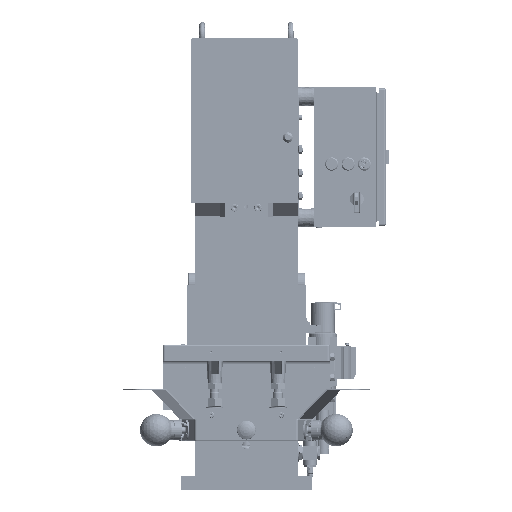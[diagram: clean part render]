
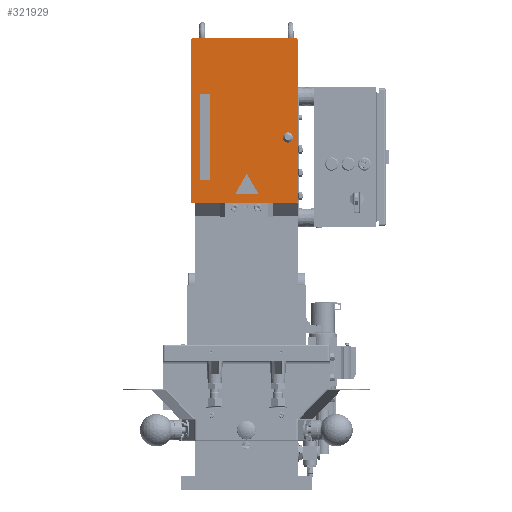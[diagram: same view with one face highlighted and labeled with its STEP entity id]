
A CAD part, front view. The second image highlights one B-rep face of the part: STEP entity #321929.
In plain terms, the highlighted planar face has unit normal (0, -1, 0).
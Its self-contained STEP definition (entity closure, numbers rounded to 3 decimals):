
#23729=FACE_BOUND('',#69516,.T.);
#23730=FACE_BOUND('',#69517,.T.);
#23731=FACE_BOUND('',#69518,.T.);
#37316=PLANE('',#337883);
#51862=FACE_OUTER_BOUND('',#69515,.T.);
#69515=EDGE_LOOP('',(#255871,#255872,#255873,#255874,#255875,#255876,#255877,
#255878));
#69516=EDGE_LOOP('',(#255879,#255880,#255881,#255882));
#69517=EDGE_LOOP('',(#255883,#255884,#255885,#255886,#255887,#255888));
#69518=EDGE_LOOP('',(#255889));
#82221=LINE('',#423368,#110985);
#82603=LINE('',#426106,#111367);
#82606=LINE('',#426111,#111370);
#83584=LINE('',#431251,#112348);
#83585=LINE('',#431253,#112349);
#83588=LINE('',#431266,#112352);
#83592=LINE('',#431278,#112356);
#83597=LINE('',#431290,#112361);
#91762=LINE('',#485654,#120526);
#92408=LINE('',#489853,#121172);
#92410=LINE('',#489862,#121174);
#110985=VECTOR('',#354283,10.);
#111367=VECTOR('',#354887,10.);
#111370=VECTOR('',#354892,10.);
#112348=VECTOR('',#356492,10.);
#112349=VECTOR('',#356495,10.);
#112352=VECTOR('',#356508,10.);
#112356=VECTOR('',#356520,10.);
#112361=VECTOR('',#356533,10.);
#120526=VECTOR('',#369720,10.);
#121172=VECTOR('',#372412,10.);
#121174=VECTOR('',#372422,10.);
#139647=CIRCLE('',#333902,4.);
#139650=CIRCLE('',#333906,4.);
#139652=CIRCLE('',#334336,1.);
#139654=CIRCLE('',#334340,1.);
#139656=CIRCLE('',#334344,1.);
#140061=CIRCLE('',#337431,11.);
#140257=CIRCLE('',#337882,4.);
#140258=CIRCLE('',#337884,4.);
#146610=VERTEX_POINT('',#423343);
#146611=VERTEX_POINT('',#423344);
#146614=VERTEX_POINT('',#423353);
#146615=VERTEX_POINT('',#423354);
#146619=VERTEX_POINT('',#423367);
#147039=VERTEX_POINT('',#426103);
#147040=VERTEX_POINT('',#426105);
#147041=VERTEX_POINT('',#426109);
#147944=VERTEX_POINT('',#431249);
#147947=VERTEX_POINT('',#431259);
#147948=VERTEX_POINT('',#431261);
#147949=VERTEX_POINT('',#431265);
#147952=VERTEX_POINT('',#431273);
#147953=VERTEX_POINT('',#431277);
#147956=VERTEX_POINT('',#431285);
#157027=VERTEX_POINT('',#488155);
#157450=VERTEX_POINT('',#489851);
#157452=VERTEX_POINT('',#489857);
#157453=VERTEX_POINT('',#489861);
#177339=EDGE_CURVE('',#146610,#146611,#139647,.T.);
#177344=EDGE_CURVE('',#146614,#146615,#139650,.T.);
#177351=EDGE_CURVE('',#146619,#146614,#82221,.T.);
#177979=EDGE_CURVE('',#147040,#147039,#82603,.T.);
#177982=EDGE_CURVE('',#147039,#147041,#82606,.T.);
#179339=EDGE_CURVE('',#147041,#147944,#83584,.T.);
#179340=EDGE_CURVE('',#147944,#147040,#83585,.T.);
#179343=EDGE_CURVE('',#147948,#147947,#139652,.T.);
#179345=EDGE_CURVE('',#147949,#147948,#83588,.T.);
#179349=EDGE_CURVE('',#147952,#147949,#139654,.T.);
#179351=EDGE_CURVE('',#147953,#147952,#83592,.T.);
#179355=EDGE_CURVE('',#147956,#147953,#139656,.T.);
#179358=EDGE_CURVE('',#147947,#147956,#83597,.T.);
#192179=EDGE_CURVE('',#146615,#146610,#91762,.T.);
#192908=EDGE_CURVE('',#157027,#157027,#140061,.T.);
#193563=EDGE_CURVE('',#146611,#157450,#92408,.T.);
#193566=EDGE_CURVE('',#157452,#157450,#140257,.T.);
#193567=EDGE_CURVE('',#157452,#157453,#92410,.T.);
#193568=EDGE_CURVE('',#146619,#157453,#140258,.T.);
#255871=ORIENTED_EDGE('',*,*,#177339,.T.);
#255872=ORIENTED_EDGE('',*,*,#193563,.T.);
#255873=ORIENTED_EDGE('',*,*,#193566,.F.);
#255874=ORIENTED_EDGE('',*,*,#193567,.T.);
#255875=ORIENTED_EDGE('',*,*,#193568,.F.);
#255876=ORIENTED_EDGE('',*,*,#177351,.T.);
#255877=ORIENTED_EDGE('',*,*,#177344,.T.);
#255878=ORIENTED_EDGE('',*,*,#192179,.T.);
#255879=ORIENTED_EDGE('',*,*,#177979,.T.);
#255880=ORIENTED_EDGE('',*,*,#177982,.T.);
#255881=ORIENTED_EDGE('',*,*,#179339,.T.);
#255882=ORIENTED_EDGE('',*,*,#179340,.T.);
#255883=ORIENTED_EDGE('',*,*,#179343,.T.);
#255884=ORIENTED_EDGE('',*,*,#179358,.T.);
#255885=ORIENTED_EDGE('',*,*,#179355,.T.);
#255886=ORIENTED_EDGE('',*,*,#179351,.T.);
#255887=ORIENTED_EDGE('',*,*,#179349,.T.);
#255888=ORIENTED_EDGE('',*,*,#179345,.T.);
#255889=ORIENTED_EDGE('',*,*,#192908,.T.);
#321929=ADVANCED_FACE('',(#51862,#23729,#23730,#23731),#37316,.T.);
#333902=AXIS2_PLACEMENT_3D('',#423345,#354261,#354262);
#333906=AXIS2_PLACEMENT_3D('',#423355,#354271,#354272);
#334336=AXIS2_PLACEMENT_3D('',#431262,#356503,#356504);
#334340=AXIS2_PLACEMENT_3D('',#431274,#356515,#356516);
#334344=AXIS2_PLACEMENT_3D('',#431286,#356527,#356528);
#337431=AXIS2_PLACEMENT_3D('',#488157,#371138,#371139);
#337882=AXIS2_PLACEMENT_3D('',#489859,#372418,#372419);
#337883=AXIS2_PLACEMENT_3D('',#489860,#372420,#372421);
#337884=AXIS2_PLACEMENT_3D('',#489863,#372423,#372424);
#354261=DIRECTION('center_axis',(0.,-1.,0.));
#354262=DIRECTION('ref_axis',(-1.,0.,0.));
#354271=DIRECTION('center_axis',(0.,-1.,0.));
#354272=DIRECTION('ref_axis',(-1.,0.,0.));
#354283=DIRECTION('',(1.,0.,0.));
#354887=DIRECTION('',(0.,0.,1.));
#354892=DIRECTION('',(1.,0.,0.));
#356492=DIRECTION('',(0.,0.,-1.));
#356495=DIRECTION('',(-1.,0.,0.));
#356503=DIRECTION('center_axis',(0.,1.,0.));
#356504=DIRECTION('ref_axis',(-0.866,0.,-0.5));
#356508=DIRECTION('',(-1.,0.,0.));
#356515=DIRECTION('center_axis',(0.,1.,0.));
#356516=DIRECTION('ref_axis',(0.866,0.,-0.5));
#356520=DIRECTION('',(0.5,0.,-0.866));
#356527=DIRECTION('center_axis',(0.,1.,0.));
#356528=DIRECTION('ref_axis',(0.,0.,
1.));
#356533=DIRECTION('',(0.5,0.,0.866));
#369720=DIRECTION('',(0.,0.,1.));
#371138=DIRECTION('center_axis',(0.,1.,0.));
#371139=DIRECTION('ref_axis',(-1.,0.,0.));
#372412=DIRECTION('',(-1.,0.,0.));
#372418=DIRECTION('center_axis',(0.,1.,0.));
#372419=DIRECTION('ref_axis',(-0.707,0.,0.707));
#372420=DIRECTION('center_axis',(0.,-1.,0.));
#372421=DIRECTION('ref_axis',(1.,0.,0.));
#372422=DIRECTION('',(0.,0.,-1.));
#372423=DIRECTION('center_axis',(0.,1.,0.));
#372424=DIRECTION('ref_axis',(-0.707,0.,-0.707));
#423343=CARTESIAN_POINT('',(110.,-549.5,966.));
#423344=CARTESIAN_POINT('',(106.,-549.5,970.));
#423345=CARTESIAN_POINT('Origin',(106.,-549.5,966.));
#423353=CARTESIAN_POINT('',(106.,-549.5,616.));
#423354=CARTESIAN_POINT('',(110.,-549.5,620.));
#423355=CARTESIAN_POINT('Origin',(106.,-549.5,620.));
#423367=CARTESIAN_POINT('',(-115.,-549.5,616.));
#423368=CARTESIAN_POINT('',(121.,-549.5,616.));
#426103=CARTESIAN_POINT('',(-99.,-549.5,851.));
#426105=CARTESIAN_POINT('',(-99.,-549.5,666.));
#426106=CARTESIAN_POINT('',(-99.,-549.5,729.5));
#426109=CARTESIAN_POINT('',(-78.,-549.5,851.));
#426111=CARTESIAN_POINT('',(-49.,-549.5,851.));
#431249=CARTESIAN_POINT('',(-78.,-549.5,666.));
#431251=CARTESIAN_POINT('',(-78.,-549.5,822.));
#431253=CARTESIAN_POINT('',(-38.5,-549.5,666.));
#431259=CARTESIAN_POINT('',(-23.134,-549.5,637.5));
#431261=CARTESIAN_POINT('',(-22.268,-549.5,636.));
#431262=CARTESIAN_POINT('Origin',(-22.268,-549.5,637.));
#431265=CARTESIAN_POINT('',(24.268,-549.5,636.));
#431266=CARTESIAN_POINT('',(-11.5,-549.5,636.));
#431273=CARTESIAN_POINT('',(25.134,-549.5,637.5));
#431274=CARTESIAN_POINT('Origin',(24.268,-549.5,637.));
#431277=CARTESIAN_POINT('',(1.866,-549.5,677.801));
#431278=CARTESIAN_POINT('',(-11.116,-549.5,700.288));
#431285=CARTESIAN_POINT('',(0.134,-549.5,677.801));
#431286=CARTESIAN_POINT('Origin',(1.,-549.5,677.301));
#431290=CARTESIAN_POINT('',(25.616,-549.5,721.938));
#485654=CARTESIAN_POINT('',(110.,-549.5,706.5));
#488155=CARTESIAN_POINT('',(100.,-549.5,757.));
#488157=CARTESIAN_POINT('Origin',(89.,-549.5,757.));
#489851=CARTESIAN_POINT('',(-115.,-549.5,970.));
#489853=CARTESIAN_POINT('',(-119.,-549.5,970.));
#489857=CARTESIAN_POINT('',(-119.,-549.5,966.));
#489859=CARTESIAN_POINT('Origin',(-115.,-549.5,966.));
#489860=CARTESIAN_POINT('Origin',(1.,-549.5,793.));
#489861=CARTESIAN_POINT('',(-119.,-549.5,620.));
#489862=CARTESIAN_POINT('',(-119.,-549.5,616.));
#489863=CARTESIAN_POINT('Origin',(-115.,-549.5,620.));
